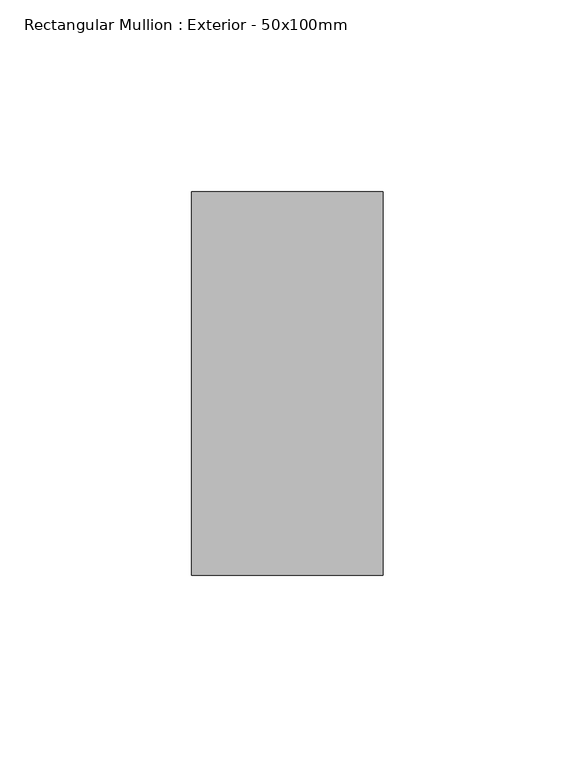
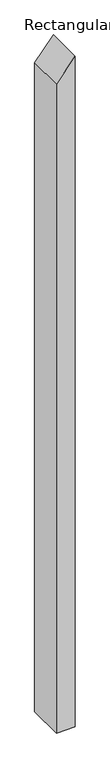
"""IFC4 building model written with IfcOpenShell, lengths in millimetres: member geometry, Rectangular Mullion : Exterior - 50x100mm."""

import ifcopenshell
import ifcopenshell.guid

model = None  # the IFC model being written
_history = None  # IfcOwnerHistory: only IFC2X3 demands one
_inside = {}  # id of a spatial element -> (the spatial element, [elements in it])
_under = {}  # id of a project, library or spatial element -> (it, [spatial elements below it])
_declared = {}  # id of a project -> (the project, [libraries it declares])
_typed = {}  # id of a type object -> (the type object, [elements of that type])
_made_of = {}  # id of a material, layer set ... -> (it, [elements and type objects made of it])


def new_model(schema):
    """Start an empty IFC model of exactly this schema.

    Asked for "IFC4X3", IfcOpenShell would pick the latest addendum, in which some entities
    have other attributes; the version numbers below select the first issue.
    IFC2X3 requires an IfcOwnerHistory on every rooted entity: one is made here for all.
    """
    global model, _history
    if schema == "IFC4X3":
        model = ifcopenshell.file(schema_version=(4, 3, 0, 0))
    else:
        model = ifcopenshell.file(schema=schema)
    _inside.clear()
    _under.clear()
    _declared.clear()
    _typed.clear()
    _made_of.clear()
    _history = None
    if model.schema == "IFC2X3":
        org = make("IfcOrganization", Name="unknown")
        user = make(
            "IfcPersonAndOrganization",
            ThePerson=make("IfcPerson", FamilyName="unknown"),
            TheOrganization=org,
        )
        app = make(
            "IfcApplication",
            ApplicationDeveloper=org,
            Version="unknown",
            ApplicationFullName="unknown",
            ApplicationIdentifier="unknown",
        )
        _history = make(
            "IfcOwnerHistory",
            OwningUser=user,
            OwningApplication=app,
            ChangeAction="ADDED",
            CreationDate=0,
        )
    return model


def make(cls, **values):
    """One entity of the class cls with the attributes given. An attribute that is None is left unset."""
    return model.create_entity(
        cls, **{name: value for name, value in values.items() if value is not None}
    )


def rooted(cls, **values):
    """An entity with a GlobalId (a new one), such as an element, a storey or a relation."""
    return make(cls, GlobalId=ifcopenshell.guid.new(), OwnerHistory=_history, **values)


def si_unit(unit_type, name, prefix=None):
    """IfcSIUnit, for example si_unit("LENGTHUNIT", "METRE", prefix="MILLI")."""
    return make("IfcSIUnit", UnitType=unit_type, Prefix=prefix, Name=name)


def assignment(units):
    """IfcUnitAssignment: the units of a project."""
    return None if units is None else make("IfcUnitAssignment", Units=units)


def point(xyz):
    """IfcCartesianPoint."""
    return None if xyz is None else make("IfcCartesianPoint", Coordinates=xyz)


def direction(xyz):
    """IfcDirection."""
    return None if xyz is None else make("IfcDirection", DirectionRatios=xyz)


def frame(location, z_axis=None, x_axis=None):
    """IfcAxis2Placement3D, a coordinate frame: its origin and axes. An axis left out is left unset."""
    return make(
        "IfcAxis2Placement3D",
        Location=point(location),
        Axis=direction(z_axis),
        RefDirection=direction(x_axis),
    )


def origin():
    """The frame at (0, 0, 0) with its axes left unset."""
    return frame((0.0, 0.0, 0.0))


def place(relative_to, where):
    """IfcLocalPlacement: puts the frame where relative to a parent placement (None: the world)."""
    return make(
        "IfcLocalPlacement", PlacementRelTo=relative_to, RelativePlacement=where
    )


def context(
    kind, dimensions, precision=None, world=None, true_north=None, identifier=None
):
    """IfcGeometricRepresentationContext, for example the 3D "Model" context."""
    return make(
        "IfcGeometricRepresentationContext",
        ContextIdentifier=identifier,
        ContextType=kind,
        CoordinateSpaceDimension=dimensions,
        Precision=precision,
        WorldCoordinateSystem=world,
        TrueNorth=true_north,
    )


def project(units=None, contexts=None):
    """IfcProject with its units and contexts."""
    return rooted(
        "IfcProject",
        Name="project",
        RepresentationContexts=contexts,
        UnitsInContext=assignment(units),
    )


def spatial(cls, under=None, at=None, **own):
    """A site, building, storey or space (cls), placed at a placement, below another one or the project."""
    s = rooted(cls, ObjectPlacement=at, **own)
    if under is not None:
        _under.setdefault(under.id(), (under, []))[1].append(s)
    return s


def polyline(points):
    """IfcPolyline through the points."""
    return make("IfcPolyline", Points=[point(p) for p in points])


def outline(outer, holes=None, kind="AREA"):
    """IfcArbitraryClosedProfileDef: a profile drawn as a closed curve; with holes, ...WithVoids."""
    if holes is None:
        return make("IfcArbitraryClosedProfileDef", ProfileType=kind, OuterCurve=outer)
    return make(
        "IfcArbitraryProfileDefWithVoids",
        ProfileType=kind,
        OuterCurve=outer,
        InnerCurves=holes,
    )


def extrude(swept, where, along, depth):
    """IfcExtrudedAreaSolid: the profile swept, set in the frame where, extruded along a direction by depth."""
    return make(
        "IfcExtrudedAreaSolid",
        SweptArea=swept,
        Position=where,
        ExtrudedDirection=direction(along),
        Depth=depth,
    )


def shape(context_of_items, identifier, shape_type, items):
    """IfcShapeRepresentation: the items that make up one representation, for example the "Body"."""
    return make(
        "IfcShapeRepresentation",
        ContextOfItems=context_of_items,
        RepresentationIdentifier=identifier,
        RepresentationType=shape_type,
        Items=items,
    )


def source(mapping_origin, context_of_items, identifier, shape_type, items):
    """IfcRepresentationMap: a shape defined once, which mapped items show again and again."""
    return make(
        "IfcRepresentationMap",
        MappingOrigin=mapping_origin,
        MappedRepresentation=shape(context_of_items, identifier, shape_type, items),
    )


def transform(
    local_origin,
    x_axis=None,
    y_axis=None,
    z_axis=None,
    scale=None,
    scale2=None,
    scale3=None,
    uniform=True,
):
    """IfcCartesianTransformationOperator3D, or its non-uniform kind. x_axis, y_axis, z_axis: its Axis1, 2, 3."""
    if uniform:
        return make(
            "IfcCartesianTransformationOperator3D",
            Axis1=direction(x_axis),
            Axis2=direction(y_axis),
            LocalOrigin=point(local_origin),
            Scale=scale,
            Axis3=direction(z_axis),
        )
    return make(
        "IfcCartesianTransformationOperator3DnonUniform",
        Axis1=direction(x_axis),
        Axis2=direction(y_axis),
        LocalOrigin=point(local_origin),
        Scale=scale,
        Axis3=direction(z_axis),
        Scale2=scale2,
        Scale3=scale3,
    )


def mapped(mapping_source, mapping_target):
    """IfcMappedItem: shows the shape of a source again, moved by a transform."""
    return make(
        "IfcMappedItem", MappingSource=mapping_source, MappingTarget=mapping_target
    )


def made_of(thing, what):
    """Note that an element or type object is made of a material, layer set ...; save() writes the relation."""
    if what is not None:
        _made_of.setdefault(what.id(), (what, []))[1].append(thing)
    return thing


def element(
    cls,
    number,
    at=None,
    inside=None,
    cuts=None,
    type_object=None,
    material=None,
    context=None,
    identifier="Body",
    shape_type=None,
    held_by="IfcProductDefinitionShape",
    body=None,
    shapes=None,
    **own,
):
    """One element of the class cls, such as IfcWall. Its Tag is "e" and its number.

    at: its placement. inside: the storey or other place that contains it. cuts: it is an
    opening in that element (IfcRelVoidsElement). A single representation is given by context,
    identifier, shape_type and body (its items); several are given by shapes. held_by: the class
    of the entity that holds the representations. save() writes the other relations.
    """
    e = rooted(cls, Tag="e%d" % number, ObjectPlacement=at, **own)
    if body is not None:
        shapes = [shape(context, identifier, shape_type, body)]
    if shapes is not None:
        e.Representation = make(held_by, Representations=shapes)
    if inside is not None:
        _inside.setdefault(inside.id(), (inside, []))[1].append(e)
    if cuts is not None:
        rooted(
            "IfcRelVoidsElement", RelatingBuildingElement=cuts, RelatedOpeningElement=e
        )
    if type_object is not None:
        _typed.setdefault(type_object.id(), (type_object, []))[1].append(e)
    return made_of(e, material)


def aggregate(whole, parts):
    """IfcRelAggregates: a whole, such as a stair, and the parts it consists of."""
    return rooted("IfcRelAggregates", RelatingObject=whole, RelatedObjects=parts)


def save(model, path):
    """Write the relations noted so far, then the file.

    IfcRelAggregates (storeys below a building ...), IfcRelContainedInSpatialStructure (elements
    in a storey), IfcRelDefinesByType, IfcRelAssociatesMaterial and IfcRelDeclares: one each for
    every whole, place, type object, material and project.
    """
    for whole, parts in _under.values():
        aggregate(whole, parts)
    for where, things in _inside.values():
        rooted(
            "IfcRelContainedInSpatialStructure",
            RelatedElements=things,
            RelatingStructure=where,
        )
    for kind, things in _typed.values():
        rooted("IfcRelDefinesByType", RelatedObjects=things, RelatingType=kind)
    for what, things in _made_of.values():
        rooted("IfcRelAssociatesMaterial", RelatedObjects=things, RelatingMaterial=what)
    for by, libraries in _declared.values():
        rooted("IfcRelDeclares", RelatingContext=by, RelatedDefinitions=libraries)
    model.write(path)


def rectangular_mullion_exterior_50x100mm_be0badd6(model_context):
    return source(origin(), model_context, "Body", "SweptSolid", [
        extrude(outline(polyline([(0.0, 0.0), (-60.6548502, -50.0), (-1894.8130526, -50.0), (-1894.8130526, 0.0), (0.0, 0.0)])), frame((0.0, 0.0, 0.0), z_axis=(0.0, 1.0, 0.0), x_axis=(0.0, 0.0, 1.0)), (0.0, 0.0, 1.0), 100.0),
    ])


if __name__ == "__main__":
    model = new_model("IFC4")
    model_context = context("Model", 3, world=origin())
    ifc_project = project(units=[si_unit("LENGTHUNIT", "METRE", prefix="MILLI")], contexts=[model_context])
    site = spatial("IfcSite", under=ifc_project)
    building = spatial("IfcBuilding", under=site)
    placement = place(None, origin())
    rectangular_mullion_exterior_50x100mm_shape = rectangular_mullion_exterior_50x100mm_be0badd6(model_context)
    element("IfcMember", 1, ObjectType="Rectangular Mullion : Exterior - 50x100mm", at=placement, inside=building, context=model_context, shape_type="MappedRepresentation", body=[
        mapped(rectangular_mullion_exterior_50x100mm_shape, transform((0.0, 0.0, 0.0), x_axis=(1.0, 0.0, 0.0), y_axis=(0.0, 1.0, 0.0), z_axis=(0.0, 0.0, 1.0))),
    ])
    save(model, "model.ifc")
